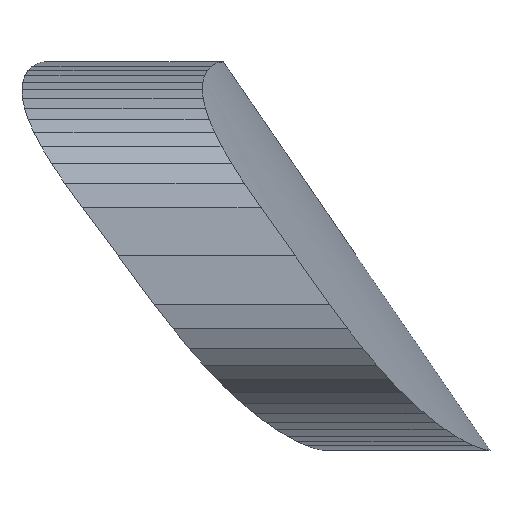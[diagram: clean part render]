
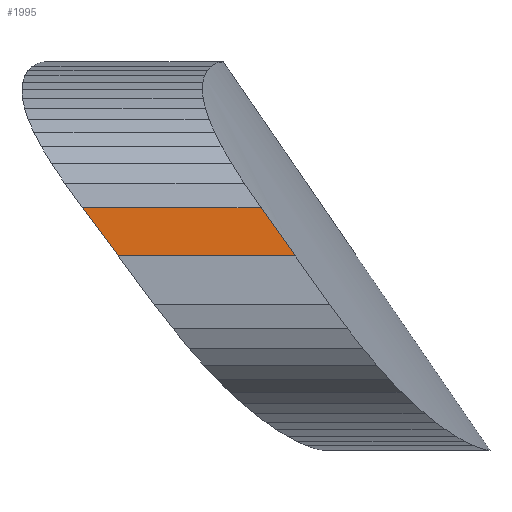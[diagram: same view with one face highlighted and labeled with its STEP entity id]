
A CAD part, left-side view. The second image highlights one B-rep face of the part: STEP entity #1995.
In plain terms, the highlighted planar face has unit normal (-1, 0, 0.033).
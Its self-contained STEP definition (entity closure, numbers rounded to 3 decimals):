
#367 = VERTEX_POINT('',#368);
#368 = CARTESIAN_POINT('',(-9.111,-29.779,
    101.85));
#378 = EDGE_CURVE('',#379,#367,#381,.T.);
#379 = VERTEX_POINT('',#380);
#380 = CARTESIAN_POINT('',(-9.138,-30.349,101.05));
#381 = B_SPLINE_CURVE_WITH_KNOTS('',4,(#382,#383,#384,#385,#386),
  .UNSPECIFIED.,.F.,.F.,(5,5),(0.,1.),.PIECEWISE_BEZIER_KNOTS.);
#382 = CARTESIAN_POINT('',(-9.138,-30.349,101.05));
#383 = CARTESIAN_POINT('',(-9.131,-30.207,
    101.251));
#384 = CARTESIAN_POINT('',(-9.124,-30.065,
    101.451));
#385 = CARTESIAN_POINT('',(-9.118,-29.923,
    101.651));
#386 = CARTESIAN_POINT('',(-9.111,-29.779,
    101.85));
#1974 = EDGE_CURVE('',#379,#1975,#1977,.T.);
#1975 = VERTEX_POINT('',#1976);
#1976 = CARTESIAN_POINT('',(-9.138,-27.408,101.05));
#1977 = LINE('',#1978,#1979);
#1978 = CARTESIAN_POINT('',(-9.138,-60.,101.05));
#1979 = VECTOR('',#1980,1.);
#1980 = DIRECTION('',(0.,1.,0.));
#1995 = ADVANCED_FACE('',(#1996),#2016,.T.);
#1996 = FACE_BOUND('',#1997,.T.);
#1997 = EDGE_LOOP('',(#1998,#1999,#2007,#2015));
#1998 = ORIENTED_EDGE('',*,*,#378,.T.);
#1999 = ORIENTED_EDGE('',*,*,#2000,.T.);
#2000 = EDGE_CURVE('',#367,#2001,#2003,.T.);
#2001 = VERTEX_POINT('',#2002);
#2002 = CARTESIAN_POINT('',(-9.111,-26.81,
    101.85));
#2003 = LINE('',#2004,#2005);
#2004 = CARTESIAN_POINT('',(-9.111,-60.,101.85));
#2005 = VECTOR('',#2006,1.);
#2006 = DIRECTION('',(0.,1.,0.));
#2007 = ORIENTED_EDGE('',*,*,#2008,.F.);
#2008 = EDGE_CURVE('',#1975,#2001,#2009,.T.);
#2009 = B_SPLINE_CURVE_WITH_KNOTS('',4,(#2010,#2011,#2012,#2013,#2014),
  .UNSPECIFIED.,.F.,.F.,(5,5),(0.,1.),.PIECEWISE_BEZIER_KNOTS.);
#2010 = CARTESIAN_POINT('',(-9.138,-27.408,101.05));
#2011 = CARTESIAN_POINT('',(-9.131,-27.26,
    101.251));
#2012 = CARTESIAN_POINT('',(-9.124,-27.111,
    101.452));
#2013 = CARTESIAN_POINT('',(-9.118,-26.961,
    101.651));
#2014 = CARTESIAN_POINT('',(-9.111,-26.81,
    101.85));
#2015 = ORIENTED_EDGE('',*,*,#1974,.F.);
#2016 = PLANE('',#2017);
#2017 = AXIS2_PLACEMENT_3D('',#2018,#2019,#2020);
#2018 = CARTESIAN_POINT('',(-9.111,-60.,101.85));
#2019 = DIRECTION('',(-0.999,0.,0.033));
#2020 = DIRECTION('',(-0.033,0.,-0.999));
